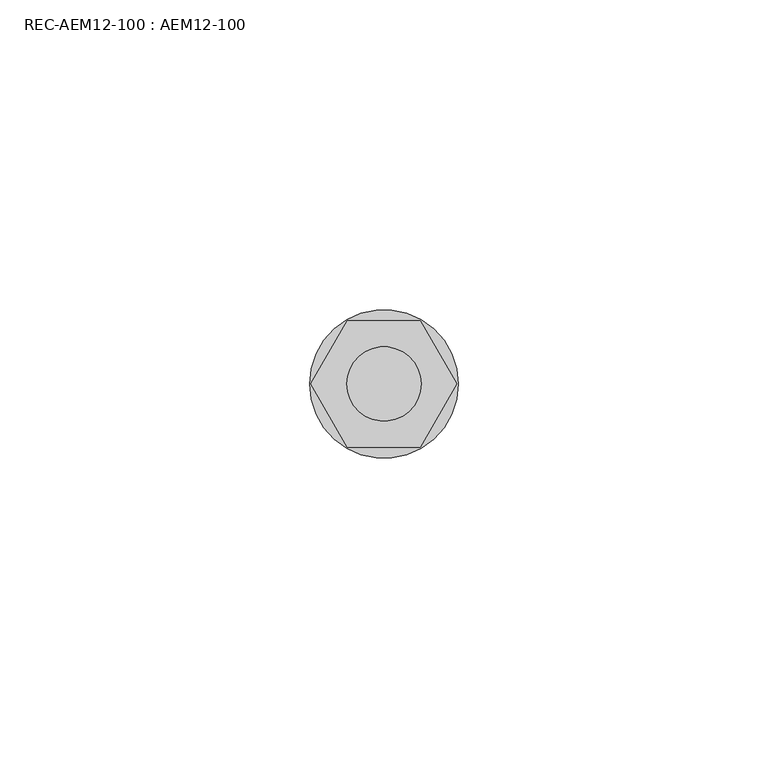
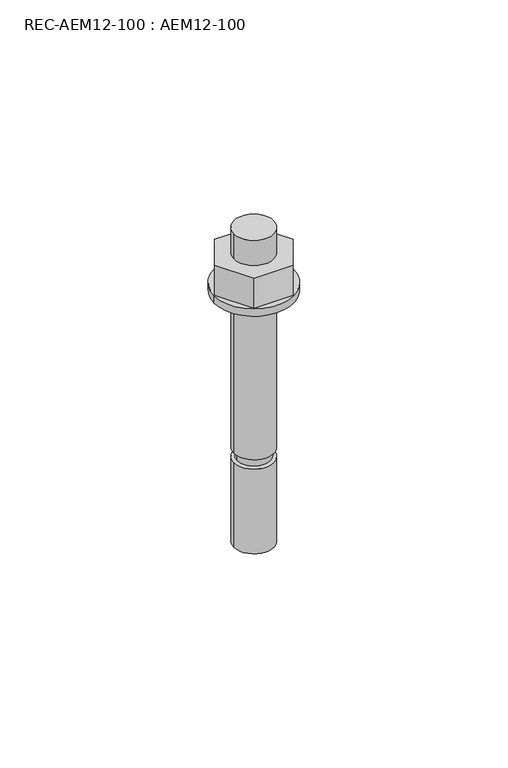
"""IFC4 building model written with IfcOpenShell, lengths in millimetres: fastener geometry, REC-AEM12-100 : AEM12-100."""

from ifc_helpers import new_model, si_unit, point, frame, origin, origin_with_axes, origin_2d, place, context, project, spatial, polyline, circle_curve, trimmed, segment, composite_curve, outline, extrude, source, transform, mapped, element, save


def rec_aem12_100_aem12_100_46347e7a(model_context):
    return source(origin(), model_context, "Body", "SweptSolid", [
        extrude(outline(polyline([(-5.890503, -10.20264), (-11.781, 0.0), (-5.890503, 10.20264), (5.8904909, 10.20264), (11.7809879, 0.0), (5.8904909, -10.20264), (-5.890503, -10.20264)]), holes=[composite_curve([segment(trimmed(circle_curve(origin_2d(), 6.0), [point((-6.0, 0.0))], [point((6.0, 0.0))], True, "CARTESIAN"), True, "CONTINUOUS"), segment(trimmed(circle_curve(origin_2d(), 6.0), [point((6.0, 0.0))], [point((-6.0, 0.0))], True, "CARTESIAN"), True, "CONTINUOUS")], self_intersect=False)]), frame((0.0, 0.0, 2.3999976), z_axis=(0.0, 0.0, 1.0), x_axis=(1.0, 0.0, 0.0)), (0.0, 0.0, 1.0), 9.6),
        extrude(outline(composite_curve([segment(trimmed(circle_curve(origin_2d(), 12.0), [point((-12.0, 0.0))], [point((12.0, 0.0))], False, "CARTESIAN"), True, "CONTINUOUS"), segment(trimmed(circle_curve(origin_2d(), 12.0), [point((12.0, 0.0))], [point((-12.0, 0.0))], False, "CARTESIAN"), True, "CONTINUOUS")], self_intersect=False), holes=[composite_curve([segment(trimmed(circle_curve(origin_2d(), 7.0), [point((-7.0, 0.0))], [point((7.0, 0.0))], True, "CARTESIAN"), True, "CONTINUOUS"), segment(trimmed(circle_curve(origin_2d(), 7.0), [point((7.0, 0.0))], [point((-7.0, 0.0))], True, "CARTESIAN"), True, "CONTINUOUS")], self_intersect=False)]), origin_with_axes(), (0.0, 0.0, 1.0), 2.3999976),
        extrude(outline(composite_curve([segment(trimmed(circle_curve(origin_2d(), 6.0), [point((-6.0, 0.0))], [point((6.0, 0.0))], False, "CARTESIAN"), True, "CONTINUOUS"), segment(trimmed(circle_curve(origin_2d(), 6.0), [point((6.0, 0.0))], [point((-6.0, 0.0))], False, "CARTESIAN"), True, "CONTINUOUS")], self_intersect=False)), frame((0.0, 0.0, -50.0), z_axis=(0.0, 0.0, 1.0), x_axis=(1.0, 0.0, 0.0)), (0.0, 0.0, 1.0), 70.0),
        extrude(outline(composite_curve([segment(trimmed(circle_curve(origin_2d(), 6.0), [point((-6.0, 0.0))], [point((6.0, 0.0))], False, "CARTESIAN"), True, "CONTINUOUS"), segment(trimmed(circle_curve(origin_2d(), 6.0), [point((6.0, 0.0))], [point((-6.0, 0.0))], False, "CARTESIAN"), True, "CONTINUOUS")], self_intersect=False)), frame((0.0, 0.0, -80.0), z_axis=(0.0, 0.0, 1.0), x_axis=(1.0, 0.0, 0.0)), (0.0, 0.0, 1.0), 27.0),
        extrude(outline(composite_curve([segment(trimmed(circle_curve(origin_2d(), 5.0), [point((-5.0, 0.0))], [point((5.0, 0.0))], False, "CARTESIAN"), True, "CONTINUOUS"), segment(trimmed(circle_curve(origin_2d(), 5.0), [point((5.0, 0.0))], [point((-5.0, 0.0))], False, "CARTESIAN"), True, "CONTINUOUS")], self_intersect=False)), frame((0.0, 0.0, -53.0), z_axis=(0.0, 0.0, 1.0), x_axis=(1.0, 0.0, 0.0)), (0.0, 0.0, 1.0), 3.0),
    ])


if __name__ == "__main__":
    model = new_model("IFC4")
    model_context = context("Model", 3, world=origin())
    ifc_project = project(units=[si_unit("LENGTHUNIT", "METRE", prefix="MILLI")], contexts=[model_context])
    site = spatial("IfcSite", under=ifc_project)
    building = spatial("IfcBuilding", under=site)
    placement = place(None, origin())
    rec_aem12_100_aem12_100_shape = rec_aem12_100_aem12_100_46347e7a(model_context)
    element("IfcFastener", 1, ObjectType="REC-AEM12-100 : AEM12-100", at=placement, inside=building, context=model_context, shape_type="MappedRepresentation", body=[
        mapped(rec_aem12_100_aem12_100_shape, transform((0.0, 0.0, 0.0), x_axis=(1.0, 0.0, 0.0), y_axis=(0.0, 1.0, 0.0), z_axis=(0.0, 0.0, 1.0))),
    ])
    save(model, "model.ifc")
